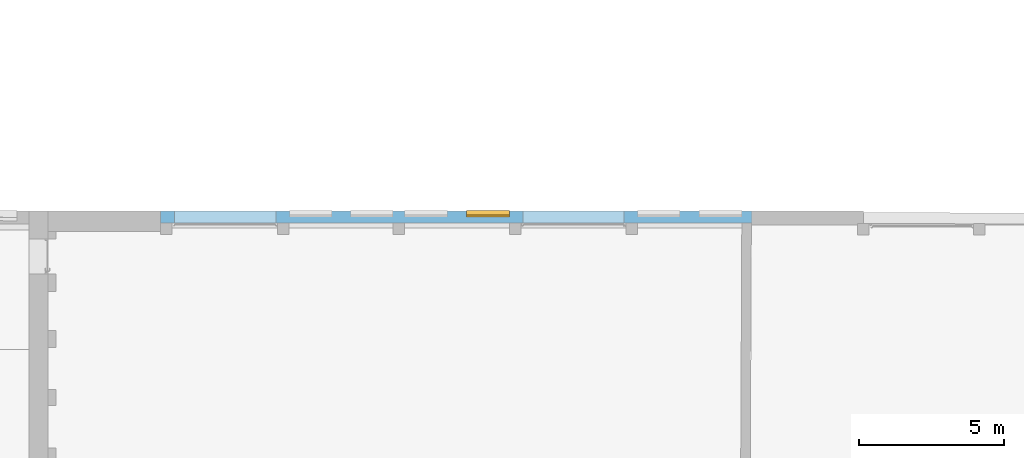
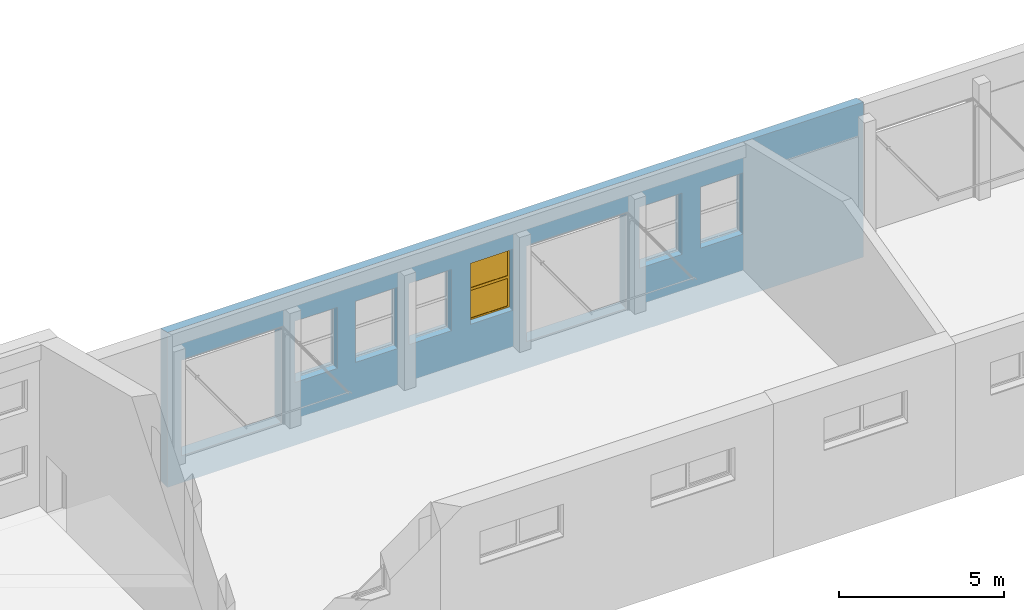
# One storey, part 110 of 301: 1 window, 8 openings, plus 1 element that does not belong to this part.
"""IFC2X3 building model written with IfcOpenShell, lengths in millimetres."""

from ifc_helpers import new_model, entity, si_unit, converted_unit, derived_unit, money_unit, direction, frame, origin_with_axes, place, context, subcontext, project, spatial, open_shell, faceted_brep, surface_model, source, transform, mapped, material, type_object, element, fill, save


model = new_model("IFC2X3")

# Units and contexts
model_context = context("Model", 3, precision=0.01, world=origin_with_axes(), true_north=direction((0.0, 1.0)))
body_context = subcontext(model_context, "Body", "Model", "MODEL_VIEW")
ifc_project = project(units=[si_unit("LENGTHUNIT", "METRE", prefix="MILLI"), si_unit("AREAUNIT", "SQUARE_METRE"), si_unit("VOLUMEUNIT", "CUBIC_METRE"), converted_unit("PLANEANGLEUNIT", "DEGREE", entity("IfcPlaneAngleMeasure", 0.0174532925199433), si_unit("PLANEANGLEUNIT", "RADIAN"), dimensions=[0, 0, 0, 0, 0, 0, 0]), money_unit("EUR"), converted_unit("TIMEUNIT", "Year", entity("IfcTimeMeasure", 31557600.0), si_unit("TIMEUNIT", "SECOND"), dimensions=[0, 0, 1, 0, 0, 0, 0]), si_unit("MASSUNIT", "GRAM", prefix="KILO"), si_unit("THERMODYNAMICTEMPERATUREUNIT", "DEGREE_CELSIUS"), si_unit("LUMINOUSINTENSITYUNIT", "LUMEN"), si_unit("ENERGYUNIT", "JOULE", prefix="MEGA"), derived_unit("THERMALCONDUCTANCEUNIT", [(si_unit("POWERUNIT", "WATT"), 1), (si_unit("LENGTHUNIT", "METRE"), -1), (si_unit("THERMODYNAMICTEMPERATUREUNIT", "KELVIN"), -1)]), derived_unit("SPECIFICHEATCAPACITYUNIT", [(si_unit("ENERGYUNIT", "JOULE"), 1), (si_unit("MASSUNIT", "GRAM", prefix="KILO"), -1), (si_unit("THERMODYNAMICTEMPERATUREUNIT", "KELVIN"), -1)]), derived_unit("MASSDENSITYUNIT", [(si_unit("MASSUNIT", "GRAM", prefix="KILO"), 1), (si_unit("VOLUMEUNIT", "CUBIC_METRE"), -1)])], contexts=[model_context])

# Site, building, storey
site_placement = place(None, frame((0.0, 0.0, 8650.0), z_axis=(0.0, 0.0, 1.0), x_axis=(1.0, 0.0, 0.0)))
site = spatial("IfcSite", under=ifc_project, at=site_placement, Name="43301:001:0844", CompositionType="ELEMENT")
building_placement = place(site_placement, origin_with_axes())
building = spatial("IfcBuilding", under=site, at=building_placement, Name="Kuressaare Ametikooli tuulikute mehaanikute õppekorpus", CompositionType="ELEMENT")
storey_placement = place(building_placement, origin_with_axes())
storey = spatial("IfcBuildingStorey", under=building, at=storey_placement, Name="1.korrus", CompositionType="ELEMENT", Elevation=0.0)

# Wall, openings, window
ifc_material = material(Name="GENEERILINE - KONSTRUKTRIOON")
wall_type = type_object("IfcWallType", Name="GENEERILINE - KONSTRUKTRIOON 420", PredefinedType="NOTDEFINED")
wall_placement = place(storey_placement, frame((180433.6538294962, 26292.98866271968, -1000.0), z_axis=(0.0, 0.0, 1.0), x_axis=(-1.0, 0.0, 0.0)))
wall = element("IfcWall", 1, at=wall_placement, inside=storey, type_object=wall_type, material=ifc_material, Name="VS-XX", context=body_context, shape_type="Brep", body=[
    faceted_brep([(24292.4157313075, 0.0, 5621.162288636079), (0.0, 0.0, 5621.162288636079), (0.0, 0.0, 0.0), (24292.4157313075, 0.0, 0.0), (19842.75388563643, 0.0, 2320.0), (18362.75388563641, 0.0, 2320.0), (18362.75388563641, 0.0, 4580.0), (19842.75388563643, 0.0, 4580.0), (16255.77241427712, 0.0, 4580.0), (17735.77241427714, 0.0, 4580.0), (17735.77241427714, 0.0, 2320.0), (16255.77241427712, 0.0, 2320.0), (15856.32928317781, 0.0, 2320.0), (14376.3292831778, 0.0, 2320.0), (14376.3292831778, 0.0, 4580.0), (15856.32928317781, 0.0, 4580.0), (12238.67527039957, 0.0, 4580.0), (13718.67527039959, 0.0, 4580.0), (13718.67527039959, 0.0, 2320.0), (12238.67527039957, 0.0, 2320.0), (7813.675270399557, 0.0, 2320.0), (6333.675270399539, 0.0, 2320.0), (6333.675270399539, 0.0, 4580.0), (7813.675270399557, 0.0, 4580.0), (4203.620199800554, 0.0, 4580.0), (5683.620199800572, 0.0, 4580.0), (5683.620199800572, 0.0, 2320.0), (4203.620199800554, 0.0, 2320.0), (11759.78144380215, 0.0, 1000.0), (8279.781443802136, 0.0, 1000.0), (8279.781443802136, 0.0, 4520.0), (11759.78144380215, 0.0, 4520.0), (23809.78144380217, 0.0, 4520.0), (23809.78144380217, 0.0, 1000.0), (20309.78144380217, 0.0, 1000.0), (20309.78144380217, 0.0, 4520.0), (0.0, 420.0000000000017, 5724.101802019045), (24292.4157313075, 419.9999999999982, 5724.101802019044), (0.0, 420.0000000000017, 0.0), (24292.4157313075, 419.9999999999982, 0.0), (19842.75388563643, 149.999999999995, 2320.0), (18362.75388563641, 149.9999999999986, 2320.0), (18362.75388563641, 149.9999999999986, 4580.0), (19842.75388563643, 149.9999999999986, 4580.0), (17735.77241427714, 149.9999999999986, 4580.0), (16255.77241427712, 149.9999999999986, 4580.0), (17735.77241427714, 149.999999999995, 2320.0), (16255.77241427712, 149.9999999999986, 2320.0), (15856.32928317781, 149.999999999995, 2320.0), (14376.3292831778, 149.9999999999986, 2320.0), (14376.3292831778, 149.9999999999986, 4580.0), (15856.32928317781, 149.9999999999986, 4580.0), (13718.67527039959, 149.9999999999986, 4580.0), (12238.67527039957, 150.0000000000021, 4580.0), (13718.67527039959, 149.9999999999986, 2320.0), (12238.67527039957, 150.0000000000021, 2320.0), (7813.675270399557, 149.9999999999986, 2320.0), (6333.675270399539, 150.0000000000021, 2320.0), (6333.675270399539, 150.0000000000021, 4580.0), (7813.675270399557, 149.9999999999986, 4580.0), (5683.620199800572, 149.9999999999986, 4580.0), (4203.620199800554, 150.0000000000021, 4580.0), (5683.620199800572, 149.9999999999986, 2320.0), (4203.620199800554, 150.0000000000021, 2320.0), (11759.78144380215, 420.0000000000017, 1000.0), (8279.781443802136, 420.0000000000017, 1000.0), (8279.781443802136, 420.0000000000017, 4520.0), (11759.78144380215, 420.0000000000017, 4520.0), (23809.78144380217, 419.9999999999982, 1000.0), (23809.78144380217, 419.9999999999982, 4520.0), (20309.78144380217, 419.9999999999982, 1000.0), (20309.78144380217, 419.9999999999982, 4520.0), (18362.75388563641, 419.9999999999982, 2320.0), (19842.75388563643, 419.9999999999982, 2320.0), (19842.75388563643, 419.9999999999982, 4580.0), (18362.75388563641, 419.9999999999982, 4580.0), (17735.77241427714, 420.0000000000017, 4580.0), (16255.77241427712, 420.0000000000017, 4580.0), (16255.77241427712, 420.0000000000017, 2320.0), (17735.77241427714, 420.0000000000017, 2320.0), (14376.3292831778, 419.9999999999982, 2320.0), (15856.32928317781, 419.9999999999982, 2320.0), (15856.32928317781, 419.9999999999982, 4580.0), (14376.3292831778, 419.9999999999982, 4580.0), (13718.67527039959, 420.0000000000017, 4580.0), (12238.67527039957, 420.0000000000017, 4580.0), (12238.67527039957, 420.0000000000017, 2320.0), (13718.67527039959, 420.0000000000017, 2320.0), (6333.675270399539, 419.9999999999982, 2320.0), (7813.675270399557, 419.9999999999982, 2320.0), (7813.675270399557, 419.9999999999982, 4580.0), (6333.675270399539, 419.9999999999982, 4580.0), (5683.620199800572, 420.0000000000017, 4580.0), (4203.620199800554, 420.0000000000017, 4580.0), (4203.620199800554, 420.0000000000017, 2320.0), (5683.620199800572, 420.0000000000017, 2320.0)], [[[0, 1, 2, 3], [4, 5, 6, 7], [8, 9, 10, 11], [12, 13, 14, 15], [16, 17, 18, 19], [20, 21, 22, 23], [24, 25, 26, 27], [28, 29, 30, 31], [32, 33, 34, 35]], [[36, 1, 0, 37]], [[1, 36, 38, 2]], [[39, 3, 2, 38]], [[37, 0, 3, 39]], [[4, 40, 41, 5]], [[5, 41, 42, 6]], [[6, 42, 43, 7]], [[7, 43, 40, 4]], [[44, 9, 8, 45]], [[46, 10, 9, 44]], [[47, 11, 10, 46]], [[45, 8, 11, 47]], [[12, 48, 49, 13]], [[13, 49, 50, 14]], [[14, 50, 51, 15]], [[15, 51, 48, 12]], [[52, 17, 16, 53]], [[54, 18, 17, 52]], [[55, 19, 18, 54]], [[53, 16, 19, 55]], [[20, 56, 57, 21]], [[21, 57, 58, 22]], [[22, 58, 59, 23]], [[23, 59, 56, 20]], [[60, 25, 24, 61]], [[62, 26, 25, 60]], [[63, 27, 26, 62]], [[61, 24, 27, 63]], [[29, 28, 64, 65]], [[30, 29, 65, 66]], [[31, 30, 66, 67]], [[28, 31, 67, 64]], [[68, 33, 32, 69]], [[70, 34, 33, 68]], [[71, 35, 34, 70]], [[69, 32, 35, 71]], [[36, 37, 39, 38], [72, 73, 74, 75], [76, 77, 78, 79], [80, 81, 82, 83], [84, 85, 86, 87], [88, 89, 90, 91], [92, 93, 94, 95], [64, 67, 66, 65], [70, 68, 69, 71]], [[72, 41, 40, 73]], [[75, 42, 41, 72]], [[74, 43, 42, 75]], [[73, 40, 43, 74]], [[45, 77, 76, 44]], [[44, 76, 79, 46]], [[46, 79, 78, 47]], [[47, 78, 77, 45]], [[80, 49, 48, 81]], [[83, 50, 49, 80]], [[82, 51, 50, 83]], [[81, 48, 51, 82]], [[53, 85, 84, 52]], [[52, 84, 87, 54]], [[54, 87, 86, 55]], [[55, 86, 85, 53]], [[88, 57, 56, 89]], [[91, 58, 57, 88]], [[90, 59, 58, 91]], [[89, 56, 59, 90]], [[61, 93, 92, 60]], [[60, 92, 95, 62]], [[62, 95, 94, 63]], [[63, 94, 93, 61]]]),
])
opening_1_placement = place(wall_placement, frame((19102.75388563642, 0.0, 2320.0), z_axis=(0.0, 0.0, 1.0), x_axis=(1.0, 0.0, 0.0)))
element("IfcOpeningElement", 2, at=opening_1_placement, cuts=wall, Name="VA-XX", context=body_context, shape_type="Brep", body=[
    faceted_brep([(740.0000000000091, 149.9999999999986, 2260.0), (-740.0000000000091, 149.9999999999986, 2260.0), (-740.0000000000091, -1.000000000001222, 2260.0), (740.0000000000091, -1.000000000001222, 2260.0), (740.0000000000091, 421.00000000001, 2260.0), (-740.0000000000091, 421.00000000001, 2260.0), (-740.0000000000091, 149.9999999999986, 0.0), (-740.0000000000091, -1.000000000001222, 0.0), (740.0000000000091, -1.000000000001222, 0.0), (740.0000000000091, 149.999999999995, 0.0), (740.0000000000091, 421.0000000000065, 0.0), (-740.0000000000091, 421.00000000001, 0.0)], [[[0, 1, 2, 3]], [[1, 0, 4, 5]], [[1, 6, 7, 2]], [[2, 7, 8, 3]], [[9, 0, 3, 8]], [[0, 9, 10, 4]], [[4, 10, 11, 5]], [[6, 1, 5, 11]], [[6, 9, 8, 7]], [[9, 6, 11, 10]]]),
])
opening_2_placement = place(wall_placement, frame((15116.32928317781, 0.0, 2320.0), z_axis=(0.0, 0.0, 1.0), x_axis=(1.0, 0.0, 0.0)))
element("IfcOpeningElement", 3, at=opening_2_placement, cuts=wall, Name="VA-XX", context=body_context, shape_type="Brep", body=[
    faceted_brep([(740.0000000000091, 149.9999999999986, 2260.0), (-740.0000000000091, 149.9999999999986, 2260.0), (-740.0000000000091, -1.000000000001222, 2260.0), (740.0000000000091, -1.000000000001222, 2260.0), (740.0000000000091, 421.0000000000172, 2260.0), (-740.0000000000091, 421.0000000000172, 2260.0), (-740.0000000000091, 149.9999999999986, 0.0), (-740.0000000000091, -1.000000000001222, 0.0), (740.0000000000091, -1.000000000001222, 0.0), (740.0000000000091, 149.999999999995, 0.0), (740.0000000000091, 421.0000000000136, 0.0), (-740.0000000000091, 421.0000000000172, 0.0)], [[[0, 1, 2, 3]], [[1, 0, 4, 5]], [[1, 6, 7, 2]], [[2, 7, 8, 3]], [[9, 0, 3, 8]], [[0, 9, 10, 4]], [[4, 10, 11, 5]], [[6, 1, 5, 11]], [[6, 9, 8, 7]], [[9, 6, 11, 10]]]),
])
opening_3_placement = place(wall_placement, frame((16995.77241427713, 0.0, 2320.0), z_axis=(0.0, 0.0, 1.0), x_axis=(1.0, 0.0, 0.0)))
element("IfcOpeningElement", 4, at=opening_3_placement, cuts=wall, Name="VA-XX", context=body_context, shape_type="Brep", body=[
    faceted_brep([(740.0000000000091, 149.9999999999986, 2260.0), (-740.0000000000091, 149.9999999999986, 2260.0), (-740.0000000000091, -1.000000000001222, 2260.0), (740.0000000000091, -1.000000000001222, 2260.0), (740.0000000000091, 421.0000000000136, 2260.0), (-740.0000000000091, 421.0000000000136, 2260.0), (-740.0000000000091, 149.9999999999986, 0.0), (-740.0000000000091, -1.000000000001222, 0.0), (740.0000000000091, -1.000000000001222, 0.0), (740.0000000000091, 149.999999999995, 0.0), (740.0000000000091, 421.00000000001, 0.0), (-740.0000000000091, 421.0000000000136, 0.0)], [[[0, 1, 2, 3]], [[1, 0, 4, 5]], [[1, 6, 7, 2]], [[2, 7, 8, 3]], [[9, 0, 3, 8]], [[0, 9, 10, 4]], [[4, 10, 11, 5]], [[6, 1, 5, 11]], [[6, 9, 8, 7]], [[9, 6, 11, 10]]]),
])
opening_4_placement = place(wall_placement, frame((12978.67527039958, 0.0, 2320.0), z_axis=(0.0, 0.0, 1.0), x_axis=(1.0, 0.0, 0.0)))
opening_4 = element("IfcOpeningElement", 5, at=opening_4_placement, cuts=wall, Name="VA-XX", context=body_context, shape_type="Brep", body=[
    faceted_brep([(740.0000000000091, 149.9999999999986, 2260.0), (-740.0000000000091, 150.0000000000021, 2260.0), (-740.0000000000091, -1.000000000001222, 2260.0), (740.0000000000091, -1.000000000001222, 2260.0), (740.0000000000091, 421.0000000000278, 2260.0), (-740.0000000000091, 421.0000000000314, 2260.0), (-740.0000000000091, 150.0000000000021, 0.0), (-740.0000000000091, -1.000000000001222, 0.0), (740.0000000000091, -1.000000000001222, 0.0), (740.0000000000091, 149.9999999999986, 0.0), (740.0000000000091, 421.0000000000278, 0.0), (-740.0000000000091, 421.0000000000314, 0.0)], [[[0, 1, 2, 3]], [[1, 0, 4, 5]], [[1, 6, 7, 2]], [[2, 7, 8, 3]], [[9, 0, 3, 8]], [[0, 9, 10, 4]], [[4, 10, 11, 5]], [[6, 1, 5, 11]], [[6, 9, 8, 7]], [[9, 6, 11, 10]]]),
])
opening_5_placement = place(wall_placement, frame((7073.675270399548, 0.0, 2320.0), z_axis=(0.0, 0.0, 1.0), x_axis=(1.0, 0.0, 0.0)))
element("IfcOpeningElement", 6, at=opening_5_placement, cuts=wall, Name="VA-XX", context=body_context, shape_type="Brep", body=[
    faceted_brep([(740.0000000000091, 149.9999999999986, 2260.0), (-740.0000000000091, 150.0000000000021, 2260.0), (-740.0000000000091, -1.000000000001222, 2260.0), (740.0000000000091, -1.000000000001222, 2260.0), (740.0000000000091, 421.000000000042, 2260.0), (-740.0000000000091, 421.0000000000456, 2260.0), (-740.0000000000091, 150.0000000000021, 0.0), (-740.0000000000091, -1.000000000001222, 0.0), (740.0000000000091, -1.000000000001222, 0.0), (740.0000000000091, 149.9999999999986, 0.0), (740.0000000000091, 421.000000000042, 0.0), (-740.0000000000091, 421.0000000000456, 0.0)], [[[0, 1, 2, 3]], [[1, 0, 4, 5]], [[1, 6, 7, 2]], [[2, 7, 8, 3]], [[9, 0, 3, 8]], [[0, 9, 10, 4]], [[4, 10, 11, 5]], [[6, 1, 5, 11]], [[6, 9, 8, 7]], [[9, 6, 11, 10]]]),
])
opening_6_placement = place(wall_placement, frame((10019.78144380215, 0.0, 1000.0), z_axis=(0.0, 0.0, 1.0), x_axis=(1.0, 0.0, 0.0)))
element("IfcOpeningElement", 7, at=opening_6_placement, cuts=wall, context=body_context, shape_type="Brep", body=[
    faceted_brep([(1740.000000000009, 421.0000000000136, 3520.0), (1740.000000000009, 421.00000000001, 0.0), (-1740.000000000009, 421.0000000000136, 0.0), (-1740.000000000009, 421.0000000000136, 3520.0), (1740.000000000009, -1.000000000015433, 3520.0), (1740.000000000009, -1.000000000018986, 0.0), (-1740.000000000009, -1.000000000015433, 0.0), (-1740.000000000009, -1.000000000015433, 3520.0)], [[[0, 1, 2, 3]], [[4, 5, 1, 0]], [[5, 6, 2, 1]], [[6, 7, 3, 2]], [[7, 4, 0, 3]], [[6, 5, 4, 7]]]),
])
opening_7_placement = place(wall_placement, frame((22059.78144380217, 0.0, 1000.0), z_axis=(0.0, 0.0, 1.0), x_axis=(1.0, 0.0, 0.0)))
element("IfcOpeningElement", 8, at=opening_7_placement, cuts=wall, context=body_context, shape_type="Brep", body=[
    faceted_brep([(1750.0, 421.0000000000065, 3520.0), (1750.0, 421.000000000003, 0.0), (-1750.0, 421.0000000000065, 0.0), (-1750.0, 421.0000000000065, 3520.0), (1750.0, -1.00000000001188, 3520.0), (1750.0, -1.000000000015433, 0.0), (-1750.0, -1.00000000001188, 0.0), (-1750.0, -1.00000000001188, 3520.0)], [[[0, 1, 2, 3]], [[4, 5, 1, 0]], [[5, 6, 2, 1]], [[6, 7, 3, 2]], [[7, 4, 0, 3]], [[6, 5, 4, 7]]]),
])
opening_8_placement = place(wall_placement, frame((4943.620199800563, 0.0, 2320.0), z_axis=(0.0, 0.0, 1.0), x_axis=(1.0, 0.0, 0.0)))
element("IfcOpeningElement", 9, at=opening_8_placement, cuts=wall, Name="VA-XX", context=body_context, shape_type="Brep", body=[
    faceted_brep([(740.0000000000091, 149.9999999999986, 2260.0), (-740.0000000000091, 150.0000000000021, 2260.0), (-740.0000000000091, -1.000000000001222, 2260.0), (740.0000000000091, -1.000000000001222, 2260.0), (740.0000000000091, 421.0000000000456, 2260.0), (-740.0000000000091, 421.0000000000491, 2260.0), (-740.0000000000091, 150.0000000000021, 0.0), (-740.0000000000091, -1.000000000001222, 0.0), (740.0000000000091, -1.000000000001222, 0.0), (740.0000000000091, 149.9999999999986, 0.0), (740.0000000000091, 421.0000000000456, 0.0), (-740.0000000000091, 421.0000000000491, 0.0)], [[[0, 1, 2, 3]], [[1, 0, 4, 5]], [[1, 6, 7, 2]], [[2, 7, 8, 3]], [[9, 0, 3, 8]], [[0, 9, 10, 4]], [[4, 10, 11, 5]], [[6, 1, 5, 11]], [[6, 9, 8, 7]], [[9, 6, 11, 10]]]),
])
window_style = type_object("IfcWindowStyle", Name="Window 27", ConstructionType="NOTDEFINED", OperationType="DOUBLE_PANEL_HORIZONTAL", ParameterTakesPrecedence=False, Sizeable=False)
shared_shape = source(origin_with_axes(), body_context, "Body", "SurfaceModel", [
    surface_model("IfcShellBasedSurfaceModel", [(-740.0000000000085, -66.0, 39.99999999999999), (-740.0000000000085, -66.0, 30.0), (740.0000000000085, -66.0, 30.00000000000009), (740.0000000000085, -66.0, 40.00000000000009), (-740.0000000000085, -225.0, 8.666666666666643), (740.0000000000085, -225.0, 8.666666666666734), (-740.0000000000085, -225.0, -11.33333333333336), (740.0000000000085, -225.0, -11.33333333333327), (-740.0000000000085, -220.0, -6.333333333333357), (740.0000000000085, -220.0, -6.333333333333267)], [open_shell([[[0, 1, 2, 3]], [[1, 4, 5, 2]], [[4, 6, 7, 5]], [[6, 8, 9, 7]]])]),
    faceted_brep([(-680.0000000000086, -65.00000000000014, 1080.0), (-680.0000000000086, 0.0, 1080.0), (-680.0000000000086, 0.0, 1180.0), (-680.0000000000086, -65.00000000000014, 1180.0), (-680.0000000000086, -65.00000000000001, 59.99999999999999), (-680.0000000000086, 0.0, 60.0), (-740.0000000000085, 0.0, 60.0), (-740.0000000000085, 0.0, 2200.0), (-680.0000000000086, 0.0, 2200.0), (-680.0000000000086, -65.00000000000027, 2200.0), (-740.0000000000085, -65.00000000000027, 2200.0), (-740.0000000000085, -65.00000000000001, 59.99999999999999)], [[[0, 1, 2, 3]], [[4, 5, 1, 0]], [[1, 5, 6, 7, 8, 2]], [[3, 2, 8, 9]], [[0, 3, 9, 10, 11, 4]], [[11, 6, 5, 4]], [[10, 7, 6, 11]], [[9, 8, 7, 10]]]),
    faceted_brep([(680.0000000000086, -65.00000000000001, 59.99999999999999), (680.0000000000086, 0.0, 60.0), (740.0000000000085, 0.0, 60.0), (740.0000000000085, -65.00000000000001, 59.99999999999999), (680.0000000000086, -65.00000000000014, 1080.0), (680.0000000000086, 0.0, 1080.0), (680.0000000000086, 0.0, 1180.0), (680.0000000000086, 0.0, 2200.0), (740.0000000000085, 0.0, 2200.0), (740.0000000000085, -65.00000000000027, 2200.0), (680.0000000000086, -65.00000000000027, 2200.0), (680.0000000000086, -65.00000000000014, 1180.0)], [[[0, 1, 2, 3]], [[4, 5, 1, 0]], [[1, 5, 6, 7, 8, 2]], [[3, 2, 8, 9]], [[0, 3, 9, 10, 11, 4]], [[11, 6, 5, 4]], [[10, 7, 6, 11]], [[9, 8, 7, 10]]]),
    faceted_brep([(-680.0000000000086, -65.00000000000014, 1180.0), (-680.0000000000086, 0.0, 1180.0), (-680.0000000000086, 0.0, 1080.0), (-680.0000000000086, -65.00000000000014, 1080.0), (680.0000000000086, -65.00000000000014, 1180.0), (680.0000000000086, 0.0, 1180.0), (680.0000000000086, 0.0, 1080.0), (680.0000000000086, -65.00000000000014, 1080.0)], [[[0, 1, 2, 3]], [[4, 5, 1, 0]], [[1, 5, 6, 2]], [[3, 2, 6, 7]], [[0, 3, 7, 4]], [[7, 6, 5, 4]]]),
    faceted_brep([(-680.0000000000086, -65.00000000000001, 59.99999999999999), (-680.0000000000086, 0.0, 60.0), (-740.0000000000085, 0.0, 60.0), (-740.0000000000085, -65.00000000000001, 59.99999999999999), (680.0000000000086, -65.00000000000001, 59.99999999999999), (680.0000000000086, 0.0, 60.0), (740.0000000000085, 0.0, 60.0), (740.0000000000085, 0.0, 0.0), (-740.0000000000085, 0.0, 0.0), (-740.0000000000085, -65.0, 0.0), (740.0000000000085, -65.0, 0.0), (740.0000000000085, -65.00000000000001, 59.99999999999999)], [[[0, 1, 2, 3]], [[4, 5, 1, 0]], [[1, 5, 6, 7, 8, 2]], [[3, 2, 8, 9]], [[0, 3, 9, 10, 11, 4]], [[11, 6, 5, 4]], [[10, 7, 6, 11]], [[9, 8, 7, 10]]]),
    faceted_brep([(680.0000000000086, -65.00000000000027, 2200.0), (680.0000000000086, 0.0, 2200.0), (740.0000000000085, 0.0, 2200.0), (740.0000000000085, -65.00000000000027, 2200.0), (-680.0000000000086, -65.00000000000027, 2200.0), (-680.0000000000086, 0.0, 2200.0), (-740.0000000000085, 0.0, 2200.0), (-740.0000000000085, 0.0, 2260.0), (740.0000000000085, 0.0, 2260.0), (740.0000000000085, -65.00000000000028, 2260.0), (-740.0000000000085, -65.00000000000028, 2260.0), (-740.0000000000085, -65.00000000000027, 2200.0)], [[[0, 1, 2, 3]], [[4, 5, 1, 0]], [[1, 5, 6, 7, 8, 2]], [[3, 2, 8, 9]], [[0, 3, 9, 10, 11, 4]], [[11, 6, 5, 4]], [[10, 7, 6, 11]], [[9, 8, 7, 10]]]),
    surface_model("IfcShellBasedSurfaceModel", [(-680.0000000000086, -35.00000000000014, 1180.0), (680.0000000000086, -35.00000000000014, 1180.0), (680.0000000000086, -35.00000000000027, 2200.0), (-680.0000000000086, -35.00000000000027, 2200.0)], [open_shell([[[0, 1, 2, 3]]])]),
    surface_model("IfcShellBasedSurfaceModel", [(-680.0000000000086, -15.00000000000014, 1180.0), (-680.0000000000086, -15.00000000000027, 2200.0), (680.0000000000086, -15.00000000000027, 2200.0), (680.0000000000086, -15.00000000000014, 1180.0)], [open_shell([[[0, 1, 2, 3]]])]),
    surface_model("IfcShellBasedSurfaceModel", [(-680.0000000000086, -35.0, 59.99999999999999), (680.0000000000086, -35.0, 59.99999999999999), (680.0000000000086, -35.00000000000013, 1080.0), (-680.0000000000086, -35.00000000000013, 1080.0)], [open_shell([[[0, 1, 2, 3]]])]),
    surface_model("IfcShellBasedSurfaceModel", [(-680.0000000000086, -15.0, 59.99999999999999), (-680.0000000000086, -15.00000000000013, 1080.0), (680.0000000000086, -15.00000000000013, 1080.0), (680.0000000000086, -15.0, 59.99999999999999)], [open_shell([[[0, 1, 2, 3]]])]),
])
window_placement = place(opening_4_placement, frame((-740.0000000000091, 0.0, 0.0), z_axis=(0.0, 0.0, 1.0), x_axis=(1.0, 0.0, 0.0)))
window = element("IfcWindow", 10, at=window_placement, inside=storey, type_object=window_style, Name="VA-XX", OverallHeight=2260.0, OverallWidth=1480.0, context=body_context, shape_type="MappedRepresentation", body=[
    mapped(shared_shape, transform((740.0000000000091, 214.9999999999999, 0.0))),
])
fill(opening_4, window)

save(model, "model.ifc")
